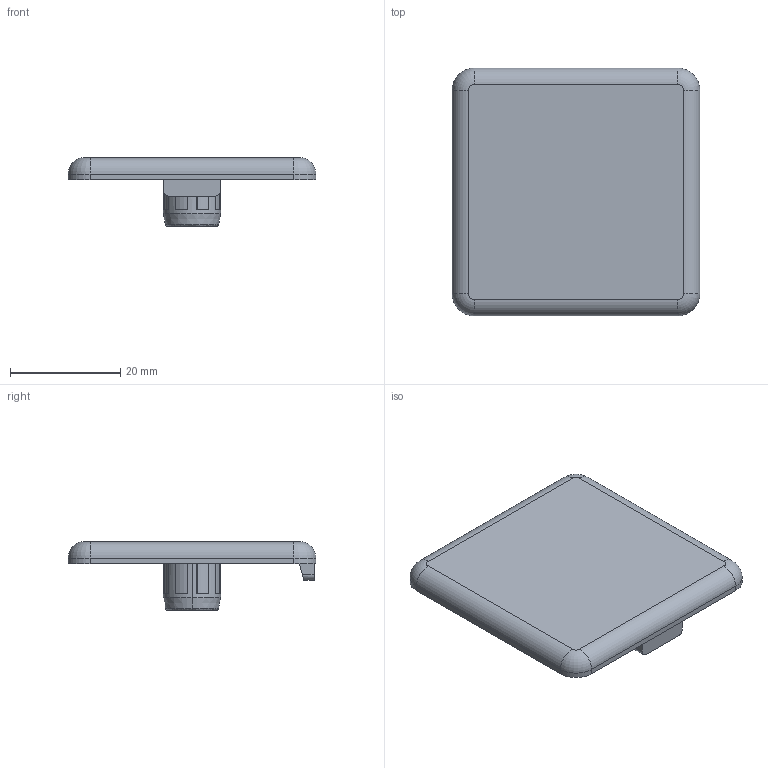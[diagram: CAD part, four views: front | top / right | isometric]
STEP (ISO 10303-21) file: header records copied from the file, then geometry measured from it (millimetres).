
FILE_DESCRIPTION (( 'STEP AP203' ), '1' );
FILE_NAME ('0110AK4545.STEP', '2024-03-06T14:33:29', ( 'Windows-Benutzer' ), ( '' ), 'SwSTEP 2.0', 'SolidWorks 2023', '' );
FILE_SCHEMA (( 'CONFIG_CONTROL_DESIGN' ));
Length unit declared in the file: millimetre
Products named in the file (1): 0110AK4545
Bounding box: 45 x 45 x 12.5 mm (x, y, z)
Volume: 6621.3 mm3; surface area: 5247.1 mm2
Topology: 1 solids, 1 shells, 72 faces, 187 edges, 120 vertices
Faces by surface type: plane 42, cylinder 22, torus 4, bspline 2, cone 2
Entity records: 2304 total; most frequent: CARTESIAN_POINT 422, DIRECTION 391, ORIENTED_EDGE 374, EDGE_CURVE 187, AXIS2_PLACEMENT_3D 137, VERTEX_POINT 120, LINE 117, VECTOR 117
